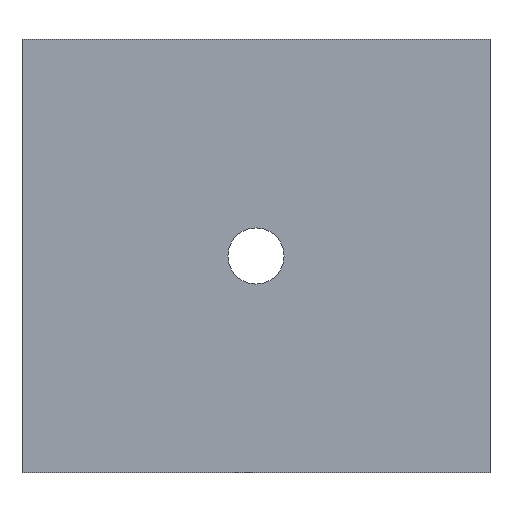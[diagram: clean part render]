
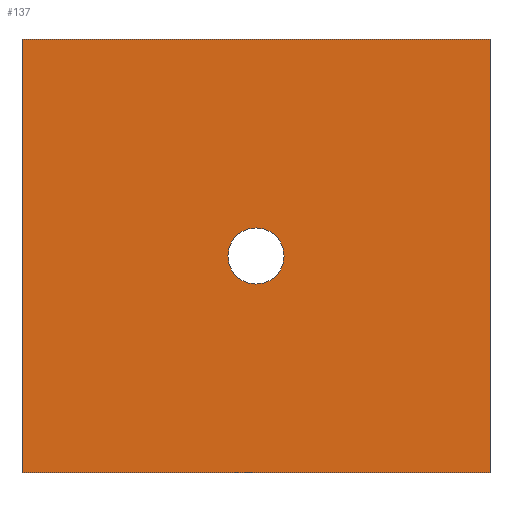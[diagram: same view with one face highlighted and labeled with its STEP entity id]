
A CAD part, front view. The second image highlights one B-rep face of the part: STEP entity #137.
In plain terms, the highlighted planar face has unit normal (0, -1, 0).
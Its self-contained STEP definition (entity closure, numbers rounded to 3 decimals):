
#21 = EDGE_CURVE('',#22,#24,#26,.T.);
#22 = VERTEX_POINT('',#23);
#23 = CARTESIAN_POINT('',(-37.5,-32.85,-34.75));
#24 = VERTEX_POINT('',#25);
#25 = CARTESIAN_POINT('',(-37.5,-32.85,34.75));
#26 = SURFACE_CURVE('',#27,(#31,#43),.PCURVE_S1.);
#27 = LINE('',#28,#29);
#28 = CARTESIAN_POINT('',(-37.5,-32.85,-34.75));
#29 = VECTOR('',#30,1.);
#30 = DIRECTION('',(0.,0.,1.));
#31 = PCURVE('',#32,#37);
#32 = PLANE('',#33);
#33 = AXIS2_PLACEMENT_3D('',#34,#35,#36);
#34 = CARTESIAN_POINT('',(-37.5,-32.85,-34.75));
#35 = DIRECTION('',(1.,0.,0.));
#36 = DIRECTION('',(0.,0.,1.));
#37 = DEFINITIONAL_REPRESENTATION('',(#38),#42);
#38 = LINE('',#39,#40);
#39 = CARTESIAN_POINT('',(0.,0.));
#40 = VECTOR('',#41,1.);
#41 = DIRECTION('',(1.,0.));
#42 = ( GEOMETRIC_REPRESENTATION_CONTEXT(2) 
PARAMETRIC_REPRESENTATION_CONTEXT() REPRESENTATION_CONTEXT('2D SPACE',''
  ) );
#43 = PCURVE('',#44,#49);
#44 = PLANE('',#45);
#45 = AXIS2_PLACEMENT_3D('',#46,#47,#48);
#46 = CARTESIAN_POINT('',(-37.5,-32.85,-34.75));
#47 = DIRECTION('',(0.,1.,0.));
#48 = DIRECTION('',(0.,0.,1.));
#49 = DEFINITIONAL_REPRESENTATION('',(#50),#54);
#50 = LINE('',#51,#52);
#51 = CARTESIAN_POINT('',(0.,0.));
#52 = VECTOR('',#53,1.);
#53 = DIRECTION('',(1.,0.));
#54 = ( GEOMETRIC_REPRESENTATION_CONTEXT(2) 
PARAMETRIC_REPRESENTATION_CONTEXT() REPRESENTATION_CONTEXT('2D SPACE',''
  ) );
#72 = PLANE('',#73);
#73 = AXIS2_PLACEMENT_3D('',#74,#75,#76);
#74 = CARTESIAN_POINT('',(-37.5,-32.85,-34.75));
#75 = DIRECTION('',(0.,0.,1.));
#76 = DIRECTION('',(1.,0.,0.));
#126 = PLANE('',#127);
#127 = AXIS2_PLACEMENT_3D('',#128,#129,#130);
#128 = CARTESIAN_POINT('',(-37.5,-32.85,34.75));
#129 = DIRECTION('',(0.,0.,1.));
#130 = DIRECTION('',(1.,0.,0.));
#137 = ADVANCED_FACE('',(#138,#213),#44,.F.);
#138 = FACE_BOUND('',#139,.F.);
#139 = EDGE_LOOP('',(#140,#163,#164,#187));
#140 = ORIENTED_EDGE('',*,*,#141,.F.);
#141 = EDGE_CURVE('',#22,#142,#144,.T.);
#142 = VERTEX_POINT('',#143);
#143 = CARTESIAN_POINT('',(37.5,-32.85,-34.75));
#144 = SURFACE_CURVE('',#145,(#149,#156),.PCURVE_S1.);
#145 = LINE('',#146,#147);
#146 = CARTESIAN_POINT('',(-37.5,-32.85,-34.75));
#147 = VECTOR('',#148,1.);
#148 = DIRECTION('',(1.,0.,0.));
#149 = PCURVE('',#44,#150);
#150 = DEFINITIONAL_REPRESENTATION('',(#151),#155);
#151 = LINE('',#152,#153);
#152 = CARTESIAN_POINT('',(0.,0.));
#153 = VECTOR('',#154,1.);
#154 = DIRECTION('',(0.,1.));
#155 = ( GEOMETRIC_REPRESENTATION_CONTEXT(2) 
PARAMETRIC_REPRESENTATION_CONTEXT() REPRESENTATION_CONTEXT('2D SPACE',''
  ) );
#156 = PCURVE('',#72,#157);
#157 = DEFINITIONAL_REPRESENTATION('',(#158),#162);
#158 = LINE('',#159,#160);
#159 = CARTESIAN_POINT('',(0.,0.));
#160 = VECTOR('',#161,1.);
#161 = DIRECTION('',(1.,0.));
#162 = ( GEOMETRIC_REPRESENTATION_CONTEXT(2) 
PARAMETRIC_REPRESENTATION_CONTEXT() REPRESENTATION_CONTEXT('2D SPACE',''
  ) );
#163 = ORIENTED_EDGE('',*,*,#21,.T.);
#164 = ORIENTED_EDGE('',*,*,#165,.T.);
#165 = EDGE_CURVE('',#24,#166,#168,.T.);
#166 = VERTEX_POINT('',#167);
#167 = CARTESIAN_POINT('',(37.5,-32.85,34.75));
#168 = SURFACE_CURVE('',#169,(#173,#180),.PCURVE_S1.);
#169 = LINE('',#170,#171);
#170 = CARTESIAN_POINT('',(-37.5,-32.85,34.75));
#171 = VECTOR('',#172,1.);
#172 = DIRECTION('',(1.,0.,0.));
#173 = PCURVE('',#44,#174);
#174 = DEFINITIONAL_REPRESENTATION('',(#175),#179);
#175 = LINE('',#176,#177);
#176 = CARTESIAN_POINT('',(69.5,0.));
#177 = VECTOR('',#178,1.);
#178 = DIRECTION('',(0.,1.));
#179 = ( GEOMETRIC_REPRESENTATION_CONTEXT(2) 
PARAMETRIC_REPRESENTATION_CONTEXT() REPRESENTATION_CONTEXT('2D SPACE',''
  ) );
#180 = PCURVE('',#126,#181);
#181 = DEFINITIONAL_REPRESENTATION('',(#182),#186);
#182 = LINE('',#183,#184);
#183 = CARTESIAN_POINT('',(0.,0.));
#184 = VECTOR('',#185,1.);
#185 = DIRECTION('',(1.,0.));
#186 = ( GEOMETRIC_REPRESENTATION_CONTEXT(2) 
PARAMETRIC_REPRESENTATION_CONTEXT() REPRESENTATION_CONTEXT('2D SPACE',''
  ) );
#187 = ORIENTED_EDGE('',*,*,#188,.F.);
#188 = EDGE_CURVE('',#142,#166,#189,.T.);
#189 = SURFACE_CURVE('',#190,(#194,#201),.PCURVE_S1.);
#190 = LINE('',#191,#192);
#191 = CARTESIAN_POINT('',(37.5,-32.85,-34.75));
#192 = VECTOR('',#193,1.);
#193 = DIRECTION('',(0.,0.,1.));
#194 = PCURVE('',#44,#195);
#195 = DEFINITIONAL_REPRESENTATION('',(#196),#200);
#196 = LINE('',#197,#198);
#197 = CARTESIAN_POINT('',(0.,75.));
#198 = VECTOR('',#199,1.);
#199 = DIRECTION('',(1.,0.));
#200 = ( GEOMETRIC_REPRESENTATION_CONTEXT(2) 
PARAMETRIC_REPRESENTATION_CONTEXT() REPRESENTATION_CONTEXT('2D SPACE',''
  ) );
#201 = PCURVE('',#202,#207);
#202 = PLANE('',#203);
#203 = AXIS2_PLACEMENT_3D('',#204,#205,#206);
#204 = CARTESIAN_POINT('',(37.5,-32.85,-34.75));
#205 = DIRECTION('',(1.,0.,0.));
#206 = DIRECTION('',(0.,0.,1.));
#207 = DEFINITIONAL_REPRESENTATION('',(#208),#212);
#208 = LINE('',#209,#210);
#209 = CARTESIAN_POINT('',(0.,0.));
#210 = VECTOR('',#211,1.);
#211 = DIRECTION('',(1.,0.));
#212 = ( GEOMETRIC_REPRESENTATION_CONTEXT(2) 
PARAMETRIC_REPRESENTATION_CONTEXT() REPRESENTATION_CONTEXT('2D SPACE',''
  ) );
#213 = FACE_BOUND('',#214,.F.);
#214 = EDGE_LOOP('',(#215));
#215 = ORIENTED_EDGE('',*,*,#216,.T.);
#216 = EDGE_CURVE('',#217,#217,#219,.T.);
#217 = VERTEX_POINT('',#218);
#218 = CARTESIAN_POINT('',(4.5,-32.85,0.));
#219 = SURFACE_CURVE('',#220,(#225,#236),.PCURVE_S1.);
#220 = CIRCLE('',#221,4.5);
#221 = AXIS2_PLACEMENT_3D('',#222,#223,#224);
#222 = CARTESIAN_POINT('',(0.,-32.85,0.));
#223 = DIRECTION('',(0.,-1.,0.));
#224 = DIRECTION('',(1.,0.,0.));
#225 = PCURVE('',#44,#226);
#226 = DEFINITIONAL_REPRESENTATION('',(#227),#235);
#227 = ( BOUNDED_CURVE() B_SPLINE_CURVE(2,(#228,#229,#230,#231,#232,#233
,#234),.UNSPECIFIED.,.T.,.F.) B_SPLINE_CURVE_WITH_KNOTS((1,2,2,2,2,1),(
    -2.094,0.,2.094,4.189,6.283,
8.378),.UNSPECIFIED.) CURVE() GEOMETRIC_REPRESENTATION_ITEM() 
RATIONAL_B_SPLINE_CURVE((1.,0.5,1.,0.5,1.,0.5,1.)) REPRESENTATION_ITEM(
  '') );
#228 = CARTESIAN_POINT('',(34.75,42.));
#229 = CARTESIAN_POINT('',(42.544,42.));
#230 = CARTESIAN_POINT('',(38.647,35.25));
#231 = CARTESIAN_POINT('',(34.75,28.5));
#232 = CARTESIAN_POINT('',(30.853,35.25));
#233 = CARTESIAN_POINT('',(26.956,42.));
#234 = CARTESIAN_POINT('',(34.75,42.));
#235 = ( GEOMETRIC_REPRESENTATION_CONTEXT(2) 
PARAMETRIC_REPRESENTATION_CONTEXT() REPRESENTATION_CONTEXT('2D SPACE',''
  ) );
#236 = PCURVE('',#237,#242);
#237 = CYLINDRICAL_SURFACE('',#238,4.5);
#238 = AXIS2_PLACEMENT_3D('',#239,#240,#241);
#239 = CARTESIAN_POINT('',(0.,60.25,0.));
#240 = DIRECTION('',(0.,-1.,0.));
#241 = DIRECTION('',(1.,0.,0.));
#242 = DEFINITIONAL_REPRESENTATION('',(#243),#247);
#243 = LINE('',#244,#245);
#244 = CARTESIAN_POINT('',(0.,93.1));
#245 = VECTOR('',#246,1.);
#246 = DIRECTION('',(1.,0.));
#247 = ( GEOMETRIC_REPRESENTATION_CONTEXT(2) 
PARAMETRIC_REPRESENTATION_CONTEXT() REPRESENTATION_CONTEXT('2D SPACE',''
  ) );
